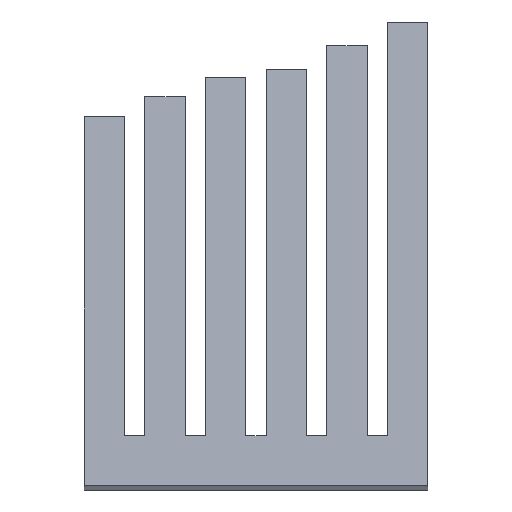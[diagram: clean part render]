
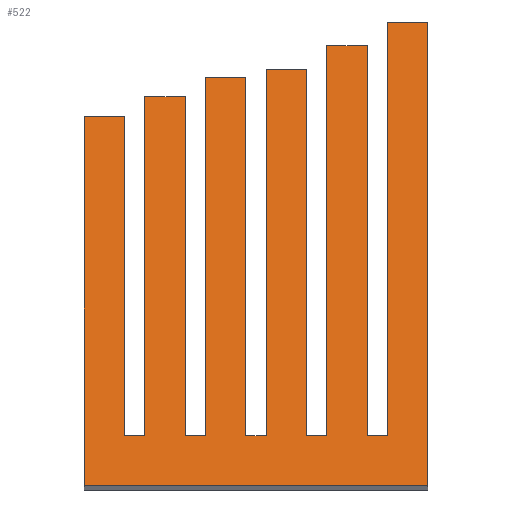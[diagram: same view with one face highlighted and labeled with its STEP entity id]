
A CAD part, top view. The second image highlights one B-rep face of the part: STEP entity #522.
In plain terms, the highlighted planar face has unit normal (0, 0.225, 0.974).
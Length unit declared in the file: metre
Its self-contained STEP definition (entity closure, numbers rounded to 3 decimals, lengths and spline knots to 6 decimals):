
#108=ORIENTED_EDGE('',*,*,#158,.F.);
#109=ORIENTED_EDGE('',*,*,#162,.T.);
#110=ORIENTED_EDGE('',*,*,#165,.T.);
#111=ORIENTED_EDGE('',*,*,#168,.T.);
#112=ORIENTED_EDGE('',*,*,#171,.F.);
#113=ORIENTED_EDGE('',*,*,#174,.T.);
#114=ORIENTED_EDGE('',*,*,#177,.T.);
#115=ORIENTED_EDGE('',*,*,#180,.T.);
#116=ORIENTED_EDGE('',*,*,#183,.F.);
#117=ORIENTED_EDGE('',*,*,#186,.T.);
#118=ORIENTED_EDGE('',*,*,#189,.T.);
#119=ORIENTED_EDGE('',*,*,#192,.T.);
#120=ORIENTED_EDGE('',*,*,#195,.F.);
#121=ORIENTED_EDGE('',*,*,#198,.T.);
#122=ORIENTED_EDGE('',*,*,#201,.T.);
#123=ORIENTED_EDGE('',*,*,#204,.T.);
#124=ORIENTED_EDGE('',*,*,#207,.F.);
#125=ORIENTED_EDGE('',*,*,#210,.T.);
#126=ORIENTED_EDGE('',*,*,#213,.T.);
#127=ORIENTED_EDGE('',*,*,#216,.T.);
#128=ORIENTED_EDGE('',*,*,#219,.F.);
#129=ORIENTED_EDGE('',*,*,#222,.F.);
#130=ORIENTED_EDGE('',*,*,#225,.T.);
#131=ORIENTED_EDGE('',*,*,#227,.T.);
#158=EDGE_CURVE('',#230,#231,#278,.T.);
#162=EDGE_CURVE('',#230,#233,#282,.T.);
#165=EDGE_CURVE('',#233,#235,#285,.T.);
#168=EDGE_CURVE('',#235,#237,#288,.T.);
#171=EDGE_CURVE('',#239,#237,#291,.T.);
#174=EDGE_CURVE('',#239,#241,#294,.T.);
#177=EDGE_CURVE('',#241,#243,#297,.T.);
#180=EDGE_CURVE('',#243,#245,#300,.T.);
#183=EDGE_CURVE('',#247,#245,#303,.T.);
#186=EDGE_CURVE('',#247,#249,#306,.T.);
#189=EDGE_CURVE('',#249,#251,#309,.T.);
#192=EDGE_CURVE('',#251,#253,#312,.T.);
#195=EDGE_CURVE('',#255,#253,#315,.T.);
#198=EDGE_CURVE('',#255,#257,#318,.T.);
#201=EDGE_CURVE('',#257,#259,#321,.T.);
#204=EDGE_CURVE('',#259,#261,#324,.T.);
#207=EDGE_CURVE('',#263,#261,#327,.T.);
#210=EDGE_CURVE('',#263,#265,#330,.T.);
#213=EDGE_CURVE('',#265,#267,#333,.T.);
#216=EDGE_CURVE('',#267,#269,#336,.T.);
#219=EDGE_CURVE('',#271,#269,#339,.T.);
#222=EDGE_CURVE('',#273,#271,#342,.T.);
#225=EDGE_CURVE('',#273,#275,#345,.T.);
#227=EDGE_CURVE('',#275,#231,#347,.T.);
#230=VERTEX_POINT('',#695);
#231=VERTEX_POINT('',#697);
#233=VERTEX_POINT('',#703);
#235=VERTEX_POINT('',#709);
#237=VERTEX_POINT('',#715);
#239=VERTEX_POINT('',#721);
#241=VERTEX_POINT('',#727);
#243=VERTEX_POINT('',#733);
#245=VERTEX_POINT('',#739);
#247=VERTEX_POINT('',#745);
#249=VERTEX_POINT('',#751);
#251=VERTEX_POINT('',#757);
#253=VERTEX_POINT('',#763);
#255=VERTEX_POINT('',#769);
#257=VERTEX_POINT('',#775);
#259=VERTEX_POINT('',#781);
#261=VERTEX_POINT('',#787);
#263=VERTEX_POINT('',#793);
#265=VERTEX_POINT('',#799);
#267=VERTEX_POINT('',#805);
#269=VERTEX_POINT('',#811);
#271=VERTEX_POINT('',#817);
#273=VERTEX_POINT('',#823);
#275=VERTEX_POINT('',#829);
#278=LINE('',#696,#350);
#282=LINE('',#704,#354);
#285=LINE('',#710,#357);
#288=LINE('',#716,#360);
#291=LINE('',#722,#363);
#294=LINE('',#728,#366);
#297=LINE('',#734,#369);
#300=LINE('',#740,#372);
#303=LINE('',#746,#375);
#306=LINE('',#752,#378);
#309=LINE('',#758,#381);
#312=LINE('',#764,#384);
#315=LINE('',#770,#387);
#318=LINE('',#776,#390);
#321=LINE('',#782,#393);
#324=LINE('',#788,#396);
#327=LINE('',#794,#399);
#330=LINE('',#800,#402);
#333=LINE('',#806,#405);
#336=LINE('',#812,#408);
#339=LINE('',#818,#411);
#342=LINE('',#824,#414);
#345=LINE('',#830,#417);
#347=LINE('',#833,#419);
#350=VECTOR('',#569,1.);
#354=VECTOR('',#575,1.);
#357=VECTOR('',#580,1.);
#360=VECTOR('',#585,1.);
#363=VECTOR('',#590,1.);
#366=VECTOR('',#595,1.);
#369=VECTOR('',#600,1.);
#372=VECTOR('',#605,1.);
#375=VECTOR('',#610,1.);
#378=VECTOR('',#615,1.);
#381=VECTOR('',#620,1.);
#384=VECTOR('',#625,1.);
#387=VECTOR('',#630,1.);
#390=VECTOR('',#635,1.);
#393=VECTOR('',#640,1.);
#396=VECTOR('',#645,1.);
#399=VECTOR('',#650,1.);
#402=VECTOR('',#655,1.);
#405=VECTOR('',#660,1.);
#408=VECTOR('',#665,1.);
#411=VECTOR('',#670,1.);
#414=VECTOR('',#675,1.);
#417=VECTOR('',#680,1.);
#419=VECTOR('',#684,1.);
#444=EDGE_LOOP('',(#108,#109,#110,#111,#112,#113,#114,#115,#116,#117,#118,
#119,#120,#121,#122,#123,#124,#125,#126,#127,#128,#129,#130,#131));
#470=FACE_BOUND('',#444,.T.);
#496=PLANE('',#561);
#522=ADVANCED_FACE('',(#470),#496,.T.);
#561=AXIS2_PLACEMENT_3D('',#834,#685,#686);
#569=DIRECTION('',(0.,0.974,-0.225));
#575=DIRECTION('',(-1.,0.,0.));
#580=DIRECTION('',(0.,0.974,-0.225));
#585=DIRECTION('',(-1.,0.,0.));
#590=DIRECTION('',(0.,0.974,-0.225));
#595=DIRECTION('',(-1.,0.,0.));
#600=DIRECTION('',(0.,0.974,-0.225));
#605=DIRECTION('',(-1.,0.,0.));
#610=DIRECTION('',(0.,0.974,-0.225));
#615=DIRECTION('',(-1.,0.,0.));
#620=DIRECTION('',(0.,0.974,-0.225));
#625=DIRECTION('',(-1.,0.,0.));
#630=DIRECTION('',(0.,0.974,-0.225));
#635=DIRECTION('',(-1.,0.,0.));
#640=DIRECTION('',(0.,0.974,-0.225));
#645=DIRECTION('',(-1.,0.,0.));
#650=DIRECTION('',(0.,0.974,-0.225));
#655=DIRECTION('',(-1.,0.,0.));
#660=DIRECTION('',(0.,0.974,-0.225));
#665=DIRECTION('',(-1.,0.,0.));
#670=DIRECTION('',(0.,0.974,-0.225));
#675=DIRECTION('',(-1.,0.,0.));
#680=DIRECTION('',(0.,0.974,-0.225));
#684=DIRECTION('',(-1.,0.,0.));
#685=DIRECTION('',(0.,0.225,0.974));
#686=DIRECTION('',(-1.,0.,0.));
#695=CARTESIAN_POINT('',(-0.104646,-0.142019,-0.006231));
#696=CARTESIAN_POINT('',(-0.104646,-0.090864,-0.018041));
#697=CARTESIAN_POINT('',(-0.104646,-0.03971,-0.029851));
#703=CARTESIAN_POINT('',(-0.109646,-0.142019,-0.006231));
#704=CARTESIAN_POINT('',(-0.107146,-0.142019,-0.006231));
#709=CARTESIAN_POINT('',(-0.109646,-0.045556,-0.028501));
#710=CARTESIAN_POINT('',(-0.109646,-0.093787,-0.017366));
#715=CARTESIAN_POINT('',(-0.119646,-0.045556,-0.028501));
#716=CARTESIAN_POINT('',(-0.114646,-0.045556,-0.028501));
#721=CARTESIAN_POINT('',(-0.119646,-0.142019,-0.006231));
#722=CARTESIAN_POINT('',(-0.119646,-0.093787,-0.017366));
#727=CARTESIAN_POINT('',(-0.124646,-0.142019,-0.006231));
#728=CARTESIAN_POINT('',(-0.122146,-0.142019,-0.006231));
#733=CARTESIAN_POINT('',(-0.124646,-0.051402,-0.027151));
#734=CARTESIAN_POINT('',(-0.124646,-0.09671,-0.016691));
#739=CARTESIAN_POINT('',(-0.134646,-0.051402,-0.027151));
#740=CARTESIAN_POINT('',(-0.129646,-0.051402,-0.027151));
#745=CARTESIAN_POINT('',(-0.134646,-0.142019,-0.006231));
#746=CARTESIAN_POINT('',(-0.134646,-0.09671,-0.016691));
#751=CARTESIAN_POINT('',(-0.139646,-0.142019,-0.006231));
#752=CARTESIAN_POINT('',(-0.137146,-0.142019,-0.006231));
#757=CARTESIAN_POINT('',(-0.139646,-0.053351,-0.026702));
#758=CARTESIAN_POINT('',(-0.139646,-0.097685,-0.016466));
#763=CARTESIAN_POINT('',(-0.149646,-0.053351,-0.026702));
#764=CARTESIAN_POINT('',(-0.144646,-0.053351,-0.026702));
#769=CARTESIAN_POINT('',(-0.149646,-0.142019,-0.006231));
#770=CARTESIAN_POINT('',(-0.149646,-0.097685,-0.016466));
#775=CARTESIAN_POINT('',(-0.154646,-0.142019,-0.006231));
#776=CARTESIAN_POINT('',(-0.152146,-0.142019,-0.006231));
#781=CARTESIAN_POINT('',(-0.154646,-0.058223,-0.025577));
#782=CARTESIAN_POINT('',(-0.154646,-0.100121,-0.015904));
#787=CARTESIAN_POINT('',(-0.164646,-0.058223,-0.025577));
#788=CARTESIAN_POINT('',(-0.159646,-0.058223,-0.025577));
#793=CARTESIAN_POINT('',(-0.164646,-0.142019,-0.006231));
#794=CARTESIAN_POINT('',(-0.164646,-0.100121,-0.015904));
#799=CARTESIAN_POINT('',(-0.169646,-0.142019,-0.006231));
#800=CARTESIAN_POINT('',(-0.167146,-0.142019,-0.006231));
#805=CARTESIAN_POINT('',(-0.169646,-0.063095,-0.024452));
#806=CARTESIAN_POINT('',(-0.169646,-0.102557,-0.015342));
#811=CARTESIAN_POINT('',(-0.179646,-0.063095,-0.024452));
#812=CARTESIAN_POINT('',(-0.174646,-0.063095,-0.024452));
#817=CARTESIAN_POINT('',(-0.179646,-0.154328,-0.003389));
#818=CARTESIAN_POINT('',(-0.179646,-0.102557,-0.015342));
#823=CARTESIAN_POINT('',(-0.094646,-0.154328,-0.003389));
#824=CARTESIAN_POINT('',(-0.137146,-0.154328,-0.003389));
#829=CARTESIAN_POINT('',(-0.094646,-0.03971,-0.029851));
#830=CARTESIAN_POINT('',(-0.094646,-0.090864,-0.018041));
#833=CARTESIAN_POINT('',(-0.099646,-0.03971,-0.029851));
#834=CARTESIAN_POINT('',(-0.137146,-0.097019,-0.01662));
